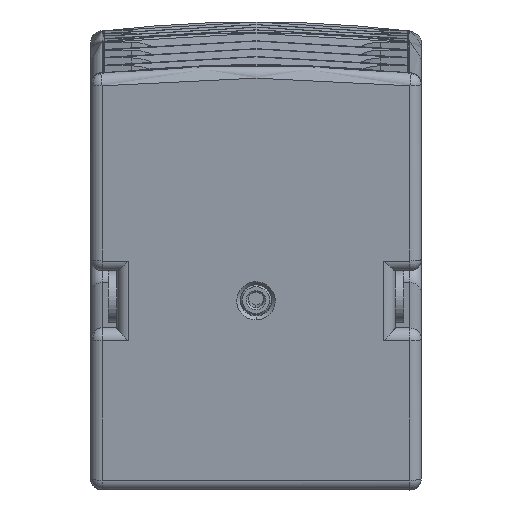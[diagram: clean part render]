
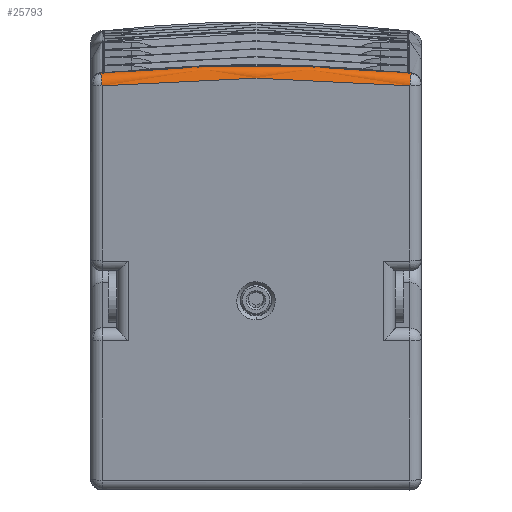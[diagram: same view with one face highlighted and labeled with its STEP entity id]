
A CAD part, front view. The second image highlights one B-rep face of the part: STEP entity #25793.
In plain terms, the highlighted toroidal (fillet/blend) face has major radius 889.025 mm and minor radius 6.5 mm.
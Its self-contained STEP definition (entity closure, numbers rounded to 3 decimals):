
#5541 = CIRCLE ( 'NONE', #5593, 895.525 ) ;
#5589 = CARTESIAN_POINT ( 'NONE',  ( 183.143, 32.068, -6.477 ) ) ;
#5590 = DIRECTION ( 'NONE',  ( 1., 0., 0. ) ) ;
#5591 = DIRECTION ( 'NONE',  ( 0., 0.139, -0.99 ) ) ;
#5592 = CARTESIAN_POINT ( 'NONE',  ( 94.5, 914.523, 117.544 ) ) ;
#5593 = AXIS2_PLACEMENT_3D ( 'NONE', #5592, #5591, #5590 ) ;
#6447 = CARTESIAN_POINT ( 'NONE',  ( 94.5, 914.523, 117.544 ) ) ;
#6448 = AXIS2_PLACEMENT_3D ( 'NONE', #6447, #6449, #6489 ) ;
#6449 = DIRECTION ( 'NONE',  ( 0., -0.139, 0.99 ) ) ;
#6450 = TOROIDAL_SURFACE ( 'NONE', #6448, 889.025, 6.5 ) ;
#6453 = FACE_OUTER_BOUND ( 'NONE', #25794, .T. ) ;
#6470 = CARTESIAN_POINT ( 'NONE',  ( 183.104, 32.772, -8.641 ) ) ;
#6471 = CARTESIAN_POINT ( 'NONE',  ( 183.106, 32.74, -8.579 ) ) ;
#6472 = CARTESIAN_POINT ( 'NONE',  ( 183.111, 32.675, -8.452 ) ) ;
#6473 = CARTESIAN_POINT ( 'NONE',  ( 183.114, 32.633, -8.366 ) ) ;
#6474 = CARTESIAN_POINT ( 'NONE',  ( 183.123, 32.513, -8.101 ) ) ;
#6475 = CARTESIAN_POINT ( 'NONE',  ( 183.127, 32.438, -7.916 ) ) ;
#6476 = CARTESIAN_POINT ( 'NONE',  ( 183.139, 32.236, -7.339 ) ) ;
#6477 = CARTESIAN_POINT ( 'NONE',  ( 183.143, 32.131, -6.922 ) ) ;
#6478 = CARTESIAN_POINT ( 'NONE',  ( 183.143, 32.068, -6.477 ) ) ;
#6481 = B_SPLINE_CURVE_WITH_KNOTS ( 'NONE', 3,
 ( #6478, #6477, #6476, #6475, #6474, #6473, #6472, #6471, #6470, #6535, #6534, #6533, #6532, #6531, #6530, #6529, #6528, #6527, #6526, #6525, #6524, #6523, #6522, #6521, #6520, #6519, #6518, #6517, #6516, #6515, #6514, #6513, #6512, #6511, #6510, #6509, #6508, #6507, #6506, #6505, #6504, #6503 ),
 .UNSPECIFIED., .F., .F.,
 ( 4, 2, 2, 2, 1, 1, 1, 2, 2, 2, 2, 2, 1, 2, 2, 2, 2, 2, 1, 1, 2, 2, 2, 4 ),
 ( 0., 0.125, 0.188, 0.219, 0.234, 0.242, 0.246, 0.248, 0.25, 0.375, 0.437, 0.469, 0.484, 0.492, 0.5, 0.625, 0.687, 0.719, 0.734, 0.742, 0.746, 0.75, 0.875, 1. ),
 .UNSPECIFIED. ) ;
#6483 = CARTESIAN_POINT ( 'NONE',  ( 182.5, 39.378, -12.014 ) ) ;
#6484 = CARTESIAN_POINT ( 'NONE',  ( 123.93, 33.608, -12.825 ) ) ;
#6485 = CARTESIAN_POINT ( 'NONE',  ( 65.07, 33.608, -12.825 ) ) ;
#6486 = CARTESIAN_POINT ( 'NONE',  ( 6.5, 39.378, -12.014 ) ) ;
#6487 =( BOUNDED_CURVE ( )  B_SPLINE_CURVE ( 3, ( #6486, #6485, #6484, #6483 ),
 .UNSPECIFIED., .F., .T. ) 
 B_SPLINE_CURVE_WITH_KNOTS ( ( 4, 4 ),
 ( 0., 1. ),
 .UNSPECIFIED. ) 
 CURVE ( )  GEOMETRIC_REPRESENTATION_ITEM ( )  RATIONAL_B_SPLINE_CURVE ( ( 1., 0.997, 0.997, 1. ) ) 
 REPRESENTATION_ITEM ( '' )  );
#6488 = CARTESIAN_POINT ( 'NONE',  ( 182.5, 39.378, -12.014 ) ) ;
#6489 = DIRECTION ( 'NONE',  ( 1., 0., 0. ) ) ;
#6503 = CARTESIAN_POINT ( 'NONE',  ( 182.5, 39.378, -12.014 ) ) ;
#6504 = CARTESIAN_POINT ( 'NONE',  ( 182.542, 38.956, -12.073 ) ) ;
#6505 = CARTESIAN_POINT ( 'NONE',  ( 182.583, 38.542, -12.089 ) ) ;
#6506 = CARTESIAN_POINT ( 'NONE',  ( 182.662, 37.735, -12.046 ) ) ;
#6507 = CARTESIAN_POINT ( 'NONE',  ( 182.7, 37.341, -11.987 ) ) ;
#6508 = CARTESIAN_POINT ( 'NONE',  ( 182.738, 36.945, -11.89 ) ) ;
#6509 = CARTESIAN_POINT ( 'NONE',  ( 182.739, 36.93, -11.887 ) ) ;
#6510 = CARTESIAN_POINT ( 'NONE',  ( 182.742, 36.903, -11.88 ) ) ;
#6511 = CARTESIAN_POINT ( 'NONE',  ( 182.746, 36.862, -11.87 ) ) ;
#6512 = CARTESIAN_POINT ( 'NONE',  ( 182.755, 36.768, -11.845 ) ) ;
#6513 = CARTESIAN_POINT ( 'NONE',  ( 182.762, 36.688, -11.822 ) ) ;
#6514 = CARTESIAN_POINT ( 'NONE',  ( 182.777, 36.53, -11.775 ) ) ;
#6515 = CARTESIAN_POINT ( 'NONE',  ( 182.787, 36.425, -11.74 ) ) ;
#6516 = CARTESIAN_POINT ( 'NONE',  ( 182.815, 36.115, -11.63 ) ) ;
#6517 = CARTESIAN_POINT ( 'NONE',  ( 182.834, 35.913, -11.546 ) ) ;
#6518 = CARTESIAN_POINT ( 'NONE',  ( 182.888, 35.321, -11.265 ) ) ;
#6519 = CARTESIAN_POINT ( 'NONE',  ( 182.923, 34.944, -11.038 ) ) ;
#6520 = CARTESIAN_POINT ( 'NONE',  ( 182.957, 34.561, -10.748 ) ) ;
#6521 = CARTESIAN_POINT ( 'NONE',  ( 182.959, 34.542, -10.733 ) ) ;
#6522 = CARTESIAN_POINT ( 'NONE',  ( 182.962, 34.5, -10.701 ) ) ;
#6523 = CARTESIAN_POINT ( 'NONE',  ( 182.968, 34.438, -10.652 ) ) ;
#6524 = CARTESIAN_POINT ( 'NONE',  ( 182.973, 34.376, -10.601 ) ) ;
#6525 = CARTESIAN_POINT ( 'NONE',  ( 182.984, 34.254, -10.499 ) ) ;
#6526 = CARTESIAN_POINT ( 'NONE',  ( 182.991, 34.174, -10.429 ) ) ;
#6527 = CARTESIAN_POINT ( 'NONE',  ( 183.011, 33.938, -10.21 ) ) ;
#6528 = CARTESIAN_POINT ( 'NONE',  ( 183.024, 33.786, -10.055 ) ) ;
#6529 = CARTESIAN_POINT ( 'NONE',  ( 183.06, 33.349, -9.561 ) ) ;
#6530 = CARTESIAN_POINT ( 'NONE',  ( 183.081, 33.082, -9.192 ) ) ;
#6531 = CARTESIAN_POINT ( 'NONE',  ( 183.098, 32.847, -8.777 ) ) ;
#6532 = CARTESIAN_POINT ( 'NONE',  ( 183.099, 32.845, -8.773 ) ) ;
#6533 = CARTESIAN_POINT ( 'NONE',  ( 183.099, 32.84, -8.763 ) ) ;
#6534 = CARTESIAN_POINT ( 'NONE',  ( 183.1, 32.831, -8.748 ) ) ;
#6535 = CARTESIAN_POINT ( 'NONE',  ( 183.101, 32.811, -8.713 ) ) ;
#23848 = VERTEX_POINT ( 'NONE', #30868 ) ;
#23857 = VERTEX_POINT ( 'NONE', #30921 ) ;
#23915 = EDGE_CURVE ( 'NONE', #23848, #23857, #31193, .T. ) ;
#25583 = EDGE_CURVE ( 'NONE', #25584, #23848, #5541, .T. ) ;
#25584 = VERTEX_POINT ( 'NONE', #5589 ) ;
#25793 = ADVANCED_FACE ( 'NONE', ( #6453 ), #6450, .T. ) ;
#25794 = EDGE_LOOP ( 'NONE', ( #25795, #25798, #25800, #25801 ) ) ;
#25795 = ORIENTED_EDGE ( 'NONE', *, *, #25796, .T. ) ;
#25796 = EDGE_CURVE ( 'NONE', #23857, #25797, #6487, .T. ) ;
#25797 = VERTEX_POINT ( 'NONE', #6488 ) ;
#25798 = ORIENTED_EDGE ( 'NONE', *, *, #25799, .F. ) ;
#25799 = EDGE_CURVE ( 'NONE', #25584, #25797, #6481, .T. ) ;
#25800 = ORIENTED_EDGE ( 'NONE', *, *, #25583, .T. ) ;
#25801 = ORIENTED_EDGE ( 'NONE', *, *, #23915, .T. ) ;
#30868 = CARTESIAN_POINT ( 'NONE',  ( 5.857, 32.068, -6.477 ) ) ;
#30921 = CARTESIAN_POINT ( 'NONE',  ( 6.5, 39.378, -12.014 ) ) ;
#31190 = CARTESIAN_POINT ( 'NONE',  ( 6.123, 35.626, -12.541 ) ) ;
#31191 = CARTESIAN_POINT ( 'NONE',  ( 5.857, 32.598, -10.248 ) ) ;
#31192 = CARTESIAN_POINT ( 'NONE',  ( 5.857, 32.068, -6.477 ) ) ;
#31193 =( BOUNDED_CURVE ( )  B_SPLINE_CURVE ( 3, ( #31192, #31191, #31190, #31234 ),
 .UNSPECIFIED., .F., .T. ) 
 B_SPLINE_CURVE_WITH_KNOTS ( ( 4, 4 ),
 ( 0., 1. ),
 .UNSPECIFIED. ) 
 CURVE ( )  GEOMETRIC_REPRESENTATION_ITEM ( )  RATIONAL_B_SPLINE_CURVE ( ( 1., 0.805, 0.805, 1. ) ) 
 REPRESENTATION_ITEM ( '' )  );
#31234 = CARTESIAN_POINT ( 'NONE',  ( 6.5, 39.378, -12.014 ) ) ;
